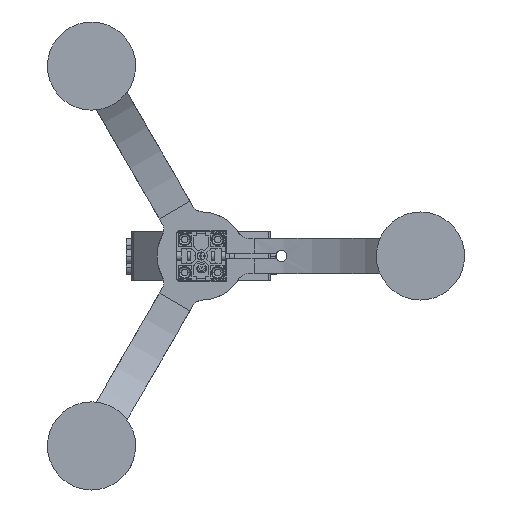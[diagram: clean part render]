
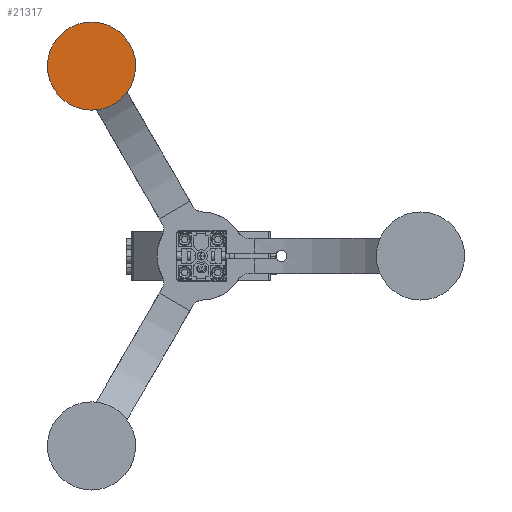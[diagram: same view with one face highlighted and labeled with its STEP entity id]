
A CAD part, front view. The second image highlights one B-rep face of the part: STEP entity #21317.
In plain terms, the highlighted planar face has unit normal (0, -1, 0).
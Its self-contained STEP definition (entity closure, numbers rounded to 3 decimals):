
#1176 = CIRCLE ( 'NONE', #6151, 40. ) ;
#2973 = AXIS2_PLACEMENT_3D ( 'NONE', #10595, #8678, #12446 ) ;
#3812 = CARTESIAN_POINT ( 'NONE',  ( 0., 0., 0. ) ) ;
#5028 = EDGE_CURVE ( 'NONE', #13406, #13503, #1176, .T. ) ;
#5828 = DIRECTION ( 'NONE',  ( 0., 0., 1. ) ) ;
#6151 = AXIS2_PLACEMENT_3D ( 'NONE', #3812, #11924, #5828 ) ;
#6850 = AXIS2_PLACEMENT_3D ( 'NONE', #23459, #17765, #13794 ) ;
#8678 = DIRECTION ( 'NONE',  ( 0., 1., 0. ) ) ;
#9285 = CARTESIAN_POINT ( 'NONE',  ( 0., 0., 40. ) ) ;
#10027 = ORIENTED_EDGE ( 'NONE', *, *, #5028, .F. ) ;
#10595 = CARTESIAN_POINT ( 'NONE',  ( 0., 0., 0. ) ) ;
#11276 = CARTESIAN_POINT ( 'NONE',  ( 0., 0., -40. ) ) ;
#11924 = DIRECTION ( 'NONE',  ( 0., 1., 0. ) ) ;
#12446 = DIRECTION ( 'NONE',  ( 0., 0., 1. ) ) ;
#13406 = VERTEX_POINT ( 'NONE', #11276 ) ;
#13503 = VERTEX_POINT ( 'NONE', #9285 ) ;
#13794 = DIRECTION ( 'NONE',  ( 0., 0., -1. ) ) ;
#16932 = EDGE_LOOP ( 'NONE', ( #20644, #10027 ) ) ;
#17614 = CIRCLE ( 'NONE', #2973, 40. ) ;
#17765 = DIRECTION ( 'NONE',  ( 0., -1., 0. ) ) ;
#19459 = FACE_OUTER_BOUND ( 'NONE', #16932, .T. ) ;
#19647 = EDGE_CURVE ( 'NONE', #13503, #13406, #17614, .T. ) ;
#20644 = ORIENTED_EDGE ( 'NONE', *, *, #19647, .F. ) ;
#20825 = PLANE ( 'NONE',  #6850 ) ;
#21317 = ADVANCED_FACE ( 'NONE', ( #19459 ), #20825, .T. ) ;
#23459 = CARTESIAN_POINT ( 'NONE',  ( -40., 0., 0. ) ) ;
